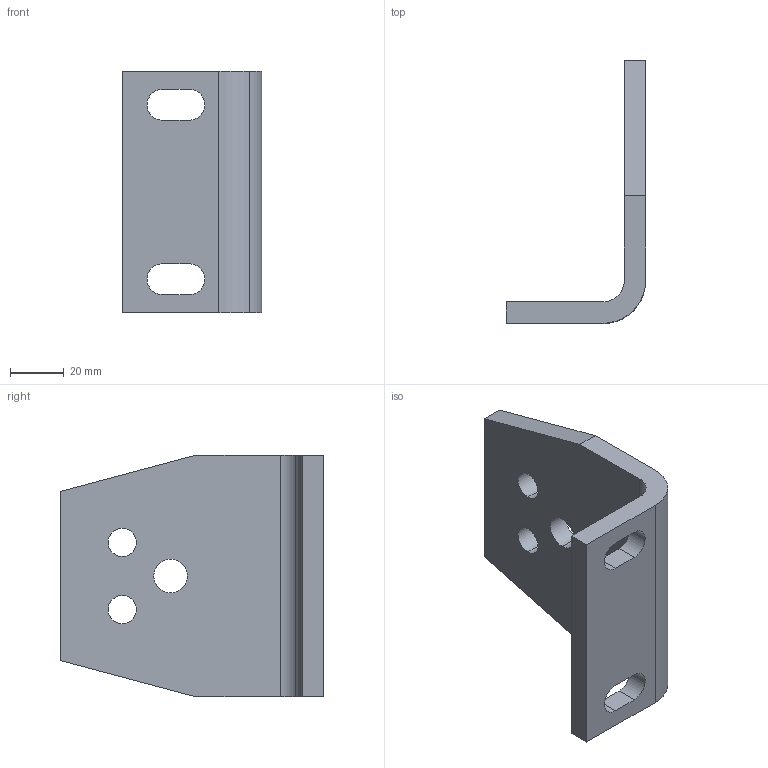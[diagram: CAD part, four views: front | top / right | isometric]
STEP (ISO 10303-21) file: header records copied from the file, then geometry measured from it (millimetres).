
FILE_DESCRIPTION((''),'2;1');
FILE_NAME('D:\ROSTA\Gummifederelemente\3D\WS27-38_06590004.stp','2005-02-04T15:45:27',('Administrator'),(''),'Autodesk Inventor 8','Autodesk Inventor 8','');
FILE_SCHEMA(('AUTOMOTIVE_DESIGN { 1 0 10303 214 1 1 1 1 }'));
Length unit declared in the file: millimetre
Products named in the file (1): WS 27-38
Bounding box: 52 x 98 x 90 mm (x, y, z)
Volume: 87221.3 mm3; surface area: 26987.3 mm2
Topology: 1 solids, 1 shells, 28 faces, 78 edges, 52 vertices
Faces by surface type: cylinder 14, plane 14
Entity records: 953 total; most frequent: DIRECTION 164, CARTESIAN_POINT 159, ORIENTED_EDGE 156, EDGE_CURVE 78, AXIS2_PLACEMENT_3D 57, VERTEX_POINT 52, VECTOR 50, LINE 50
